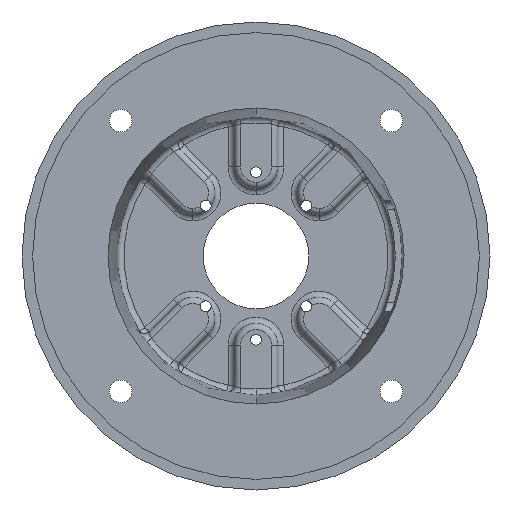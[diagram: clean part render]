
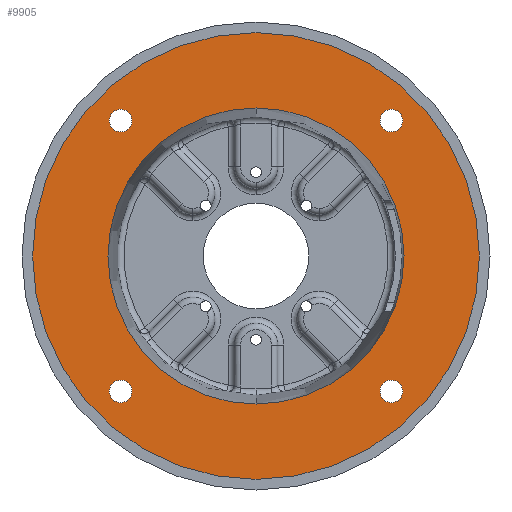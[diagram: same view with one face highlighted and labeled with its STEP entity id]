
A CAD part, front view. The second image highlights one B-rep face of the part: STEP entity #9905.
In plain terms, the highlighted planar face has unit normal (0, -1, 0).
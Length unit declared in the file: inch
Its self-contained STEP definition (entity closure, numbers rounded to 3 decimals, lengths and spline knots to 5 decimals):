
#10 = AXIS2_PLACEMENT_3D ( 'NONE', #9878, #3208, #11003 ) ;
#415 = DIRECTION ( 'NONE',  ( 0., -1., 0. ) ) ;
#427 = CARTESIAN_POINT ( 'NONE',  ( 3.18198, 0.18, 3.44761 ) ) ;
#490 = VERTEX_POINT ( 'NONE', #427 ) ;
#579 = EDGE_LOOP ( 'NONE', ( #11356, #3083 ) ) ;
#887 = VERTEX_POINT ( 'NONE', #3960 ) ;
#941 = CARTESIAN_POINT ( 'NONE',  ( 0., 0.18, 0. ) ) ;
#1001 = CARTESIAN_POINT ( 'NONE',  ( -3.18198, 0.18, -2.91636 ) ) ;
#1380 = ORIENTED_EDGE ( 'NONE', *, *, #6292, .T. ) ;
#1458 = DIRECTION ( 'NONE',  ( 0., -1., 0. ) ) ;
#1613 = CARTESIAN_POINT ( 'NONE',  ( -3.18198, 0.18, 3.18198 ) ) ;
#1716 = AXIS2_PLACEMENT_3D ( 'NONE', #7077, #415, #8203 ) ;
#1743 = CARTESIAN_POINT ( 'NONE',  ( 0., 0.18, -3.47973 ) ) ;
#1945 = AXIS2_PLACEMENT_3D ( 'NONE', #1613, #9398, #2721 ) ;
#2034 = CARTESIAN_POINT ( 'NONE',  ( 0., 0.18, 0. ) ) ;
#2072 = DIRECTION ( 'NONE',  ( 0., 0., -1. ) ) ;
#2317 = VERTEX_POINT ( 'NONE', #6233 ) ;
#2714 = EDGE_CURVE ( 'NONE', #13738, #4503, #10554, .T. ) ;
#2721 = DIRECTION ( 'NONE',  ( 0., 0., -1. ) ) ;
#2857 = ORIENTED_EDGE ( 'NONE', *, *, #3493, .F. ) ;
#2890 = VERTEX_POINT ( 'NONE', #4259 ) ;
#3083 = ORIENTED_EDGE ( 'NONE', *, *, #9084, .F. ) ;
#3119 = CIRCLE ( 'NONE', #9319, 3.47973 ) ;
#3157 = DIRECTION ( 'NONE',  ( 0., 0., -1. ) ) ;
#3208 = DIRECTION ( 'NONE',  ( 0., -1., 0. ) ) ;
#3248 = AXIS2_PLACEMENT_3D ( 'NONE', #4392, #12195, #5506 ) ;
#3438 = CARTESIAN_POINT ( 'NONE',  ( 0., 0.18, 0. ) ) ;
#3493 = EDGE_CURVE ( 'NONE', #4503, #13738, #11588, .T. ) ;
#3508 = VERTEX_POINT ( 'NONE', #9089 ) ;
#3538 = DIRECTION ( 'NONE',  ( 0., -1., 0. ) ) ;
#3546 = DIRECTION ( 'NONE',  ( 0., -1., 0. ) ) ;
#3587 = EDGE_LOOP ( 'NONE', ( #4311, #4648 ) ) ;
#3697 = CARTESIAN_POINT ( 'NONE',  ( 0., 0.18, 5.2505 ) ) ;
#3734 = CIRCLE ( 'NONE', #1716, 0.26562 ) ;
#3852 = ORIENTED_EDGE ( 'NONE', *, *, #7019, .F. ) ;
#3960 = CARTESIAN_POINT ( 'NONE',  ( 0., 0.18, 3.47973 ) ) ;
#4161 = CIRCLE ( 'NONE', #5653, 5.2505 ) ;
#4259 = CARTESIAN_POINT ( 'NONE',  ( 0., 0.18, -5.2505 ) ) ;
#4311 = ORIENTED_EDGE ( 'NONE', *, *, #7383, .F. ) ;
#4392 = CARTESIAN_POINT ( 'NONE',  ( 3.18198, 0.18, 3.18198 ) ) ;
#4503 = VERTEX_POINT ( 'NONE', #7341 ) ;
#4527 = VERTEX_POINT ( 'NONE', #14142 ) ;
#4551 = PLANE ( 'NONE',  #5208 ) ;
#4556 = DIRECTION ( 'NONE',  ( 0., -1., 0. ) ) ;
#4648 = ORIENTED_EDGE ( 'NONE', *, *, #4700, .F. ) ;
#4700 = EDGE_CURVE ( 'NONE', #490, #4527, #5556, .T. ) ;
#4780 = CARTESIAN_POINT ( 'NONE',  ( 0., 0.18, 0. ) ) ;
#4835 = VERTEX_POINT ( 'NONE', #1743 ) ;
#4962 = FACE_BOUND ( 'NONE', #13422, .T. ) ;
#5197 = EDGE_LOOP ( 'NONE', ( #3852, #11990 ) ) ;
#5208 = AXIS2_PLACEMENT_3D ( 'NONE', #3438, #13445, #6790 ) ;
#5322 = FACE_BOUND ( 'NONE', #3587, .T. ) ;
#5506 = DIRECTION ( 'NONE',  ( 0., 0., -1. ) ) ;
#5556 = CIRCLE ( 'NONE', #12939, 0.26562 ) ;
#5577 = EDGE_LOOP ( 'NONE', ( #6792, #2857 ) ) ;
#5653 = AXIS2_PLACEMENT_3D ( 'NONE', #4780, #12587, #5907 ) ;
#5727 = VERTEX_POINT ( 'NONE', #8347 ) ;
#5810 = AXIS2_PLACEMENT_3D ( 'NONE', #941, #8743, #2072 ) ;
#5882 = EDGE_CURVE ( 'NONE', #4835, #887, #3119, .T. ) ;
#5907 = DIRECTION ( 'NONE',  ( 0., 0., -1. ) ) ;
#6225 = CARTESIAN_POINT ( 'NONE',  ( 0., 0.18, 0. ) ) ;
#6233 = CARTESIAN_POINT ( 'NONE',  ( 3.18198, 0.18, -2.91636 ) ) ;
#6292 = EDGE_CURVE ( 'NONE', #887, #4835, #14404, .T. ) ;
#6790 = DIRECTION ( 'NONE',  ( 0., 0., -1. ) ) ;
#6792 = ORIENTED_EDGE ( 'NONE', *, *, #2714, .F. ) ;
#7004 = ORIENTED_EDGE ( 'NONE', *, *, #13182, .T. ) ;
#7019 = EDGE_CURVE ( 'NONE', #3508, #9438, #9526, .T. ) ;
#7077 = CARTESIAN_POINT ( 'NONE',  ( 3.18198, 0.18, -3.18198 ) ) ;
#7305 = AXIS2_PLACEMENT_3D ( 'NONE', #6225, #13997, #7359 ) ;
#7341 = CARTESIAN_POINT ( 'NONE',  ( -3.18198, 0.18, 3.44761 ) ) ;
#7359 = DIRECTION ( 'NONE',  ( 0., 0., -1. ) ) ;
#7383 = EDGE_CURVE ( 'NONE', #4527, #490, #9705, .T. ) ;
#7666 = CIRCLE ( 'NONE', #10, 0.26562 ) ;
#7947 = FACE_OUTER_BOUND ( 'NONE', #14071, .T. ) ;
#8090 = EDGE_CURVE ( 'NONE', #8696, #2890, #4161, .T. ) ;
#8099 = CARTESIAN_POINT ( 'NONE',  ( 3.18198, 0.18, -3.18198 ) ) ;
#8203 = DIRECTION ( 'NONE',  ( 0., 0., -1. ) ) ;
#8287 = FACE_BOUND ( 'NONE', #5197, .T. ) ;
#8347 = CARTESIAN_POINT ( 'NONE',  ( 3.18198, 0.18, -3.44761 ) ) ;
#8696 = VERTEX_POINT ( 'NONE', #3697 ) ;
#8743 = DIRECTION ( 'NONE',  ( 0., 1., 0. ) ) ;
#9027 = AXIS2_PLACEMENT_3D ( 'NONE', #11235, #4556, #12353 ) ;
#9084 = EDGE_CURVE ( 'NONE', #2317, #5727, #11283, .T. ) ;
#9089 = CARTESIAN_POINT ( 'NONE',  ( -3.18198, 0.18, -3.44761 ) ) ;
#9234 = DIRECTION ( 'NONE',  ( 0., 0., -1. ) ) ;
#9319 = AXIS2_PLACEMENT_3D ( 'NONE', #2034, #9829, #3157 ) ;
#9398 = DIRECTION ( 'NONE',  ( 0., -1., 0. ) ) ;
#9438 = VERTEX_POINT ( 'NONE', #1001 ) ;
#9526 = CIRCLE ( 'NONE', #9027, 0.26562 ) ;
#9705 = CIRCLE ( 'NONE', #3248, 0.26562 ) ;
#9829 = DIRECTION ( 'NONE',  ( 0., 1., 0. ) ) ;
#9878 = CARTESIAN_POINT ( 'NONE',  ( -3.18198, 0.18, -3.18198 ) ) ;
#9905 = ADVANCED_FACE ( 'NONE', ( #13833, #5322, #10928, #8287, #7947, #4962 ), #4551, .T. ) ;
#10208 = CARTESIAN_POINT ( 'NONE',  ( -3.18198, 0.18, 3.18198 ) ) ;
#10212 = CARTESIAN_POINT ( 'NONE',  ( 3.18198, 0.18, 3.18198 ) ) ;
#10259 = ORIENTED_EDGE ( 'NONE', *, *, #8090, .T. ) ;
#10554 = CIRCLE ( 'NONE', #1945, 0.26562 ) ;
#10650 = ORIENTED_EDGE ( 'NONE', *, *, #5882, .T. ) ;
#10928 = FACE_BOUND ( 'NONE', #579, .T. ) ;
#11003 = DIRECTION ( 'NONE',  ( 0., 0., -1. ) ) ;
#11235 = CARTESIAN_POINT ( 'NONE',  ( -3.18198, 0.18, -3.18198 ) ) ;
#11283 = CIRCLE ( 'NONE', #12303, 0.26562 ) ;
#11331 = DIRECTION ( 'NONE',  ( 0., 0., -1. ) ) ;
#11337 = DIRECTION ( 'NONE',  ( 0., 0., -1. ) ) ;
#11356 = ORIENTED_EDGE ( 'NONE', *, *, #12075, .F. ) ;
#11588 = CIRCLE ( 'NONE', #14035, 0.26562 ) ;
#11990 = ORIENTED_EDGE ( 'NONE', *, *, #13938, .F. ) ;
#12075 = EDGE_CURVE ( 'NONE', #5727, #2317, #3734, .T. ) ;
#12195 = DIRECTION ( 'NONE',  ( 0., -1., 0. ) ) ;
#12303 = AXIS2_PLACEMENT_3D ( 'NONE', #8099, #1458, #9234 ) ;
#12353 = DIRECTION ( 'NONE',  ( 0., 0., -1. ) ) ;
#12587 = DIRECTION ( 'NONE',  ( 0., -1., 0. ) ) ;
#12939 = AXIS2_PLACEMENT_3D ( 'NONE', #10212, #3546, #11337 ) ;
#13182 = EDGE_CURVE ( 'NONE', #2890, #8696, #13250, .T. ) ;
#13250 = CIRCLE ( 'NONE', #7305, 5.2505 ) ;
#13422 = EDGE_LOOP ( 'NONE', ( #10650, #1380 ) ) ;
#13445 = DIRECTION ( 'NONE',  ( 0., -1., 0. ) ) ;
#13499 = CARTESIAN_POINT ( 'NONE',  ( -3.18198, 0.18, 2.91636 ) ) ;
#13738 = VERTEX_POINT ( 'NONE', #13499 ) ;
#13833 = FACE_BOUND ( 'NONE', #5577, .T. ) ;
#13938 = EDGE_CURVE ( 'NONE', #9438, #3508, #7666, .T. ) ;
#13997 = DIRECTION ( 'NONE',  ( 0., -1., 0. ) ) ;
#14035 = AXIS2_PLACEMENT_3D ( 'NONE', #10208, #3538, #11331 ) ;
#14071 = EDGE_LOOP ( 'NONE', ( #7004, #10259 ) ) ;
#14142 = CARTESIAN_POINT ( 'NONE',  ( 3.18198, 0.18, 2.91636 ) ) ;
#14404 = CIRCLE ( 'NONE', #5810, 3.47973 ) ;
